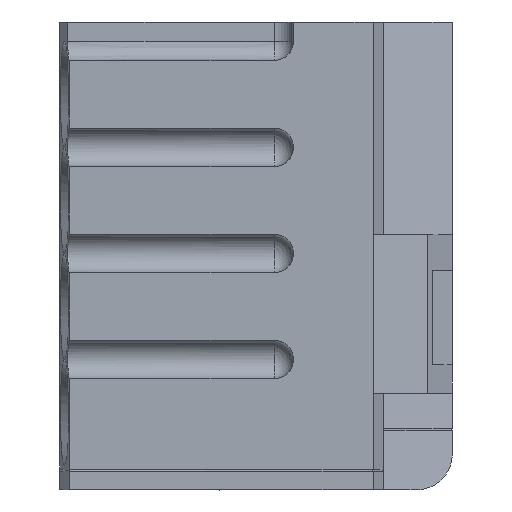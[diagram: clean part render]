
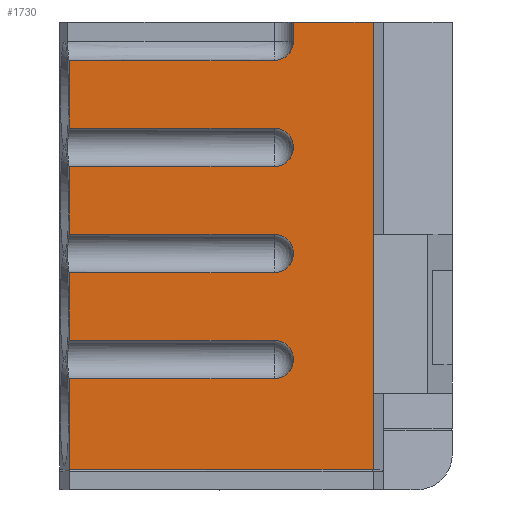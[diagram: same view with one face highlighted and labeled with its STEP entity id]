
A CAD part, top view. The second image highlights one B-rep face of the part: STEP entity #1730.
In plain terms, the highlighted planar face has unit normal (0, 0, 1).
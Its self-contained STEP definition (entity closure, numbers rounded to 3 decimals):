
#23=B_SPLINE_CURVE_WITH_KNOTS('',3,(#2561,#2562,#2563,#2564),
 .UNSPECIFIED.,.F.,.F.,(4,4),(0.,0.009),.UNSPECIFIED.);
#67=PLANE('',#1856);
#87=LINE('',#2227,#200);
#88=LINE('',#2231,#201);
#89=LINE('',#2238,#202);
#90=LINE('',#2242,#203);
#179=LINE('',#2497,#292);
#181=LINE('',#2501,#294);
#182=LINE('',#2503,#295);
#183=LINE('',#2505,#296);
#184=LINE('',#2507,#297);
#191=LINE('',#2535,#304);
#193=LINE('',#2566,#306);
#194=LINE('',#2570,#307);
#195=LINE('',#2572,#308);
#196=LINE('',#2573,#309);
#197=LINE('',#2574,#310);
#198=LINE('',#2575,#311);
#200=VECTOR('',#1871,1000.);
#201=VECTOR('',#1874,1000.);
#202=VECTOR('',#1883,1000.);
#203=VECTOR('',#1886,1000.);
#292=VECTOR('',#2147,1000.);
#294=VECTOR('',#2151,1000.);
#295=VECTOR('',#2154,1000.);
#296=VECTOR('',#2157,1000.);
#297=VECTOR('',#2160,1000.);
#304=VECTOR('',#2195,1000.);
#306=VECTOR('',#2201,1000.);
#307=VECTOR('',#2204,1000.);
#308=VECTOR('',#2207,1000.);
#309=VECTOR('',#2208,1000.);
#310=VECTOR('',#2209,1000.);
#311=VECTOR('',#2210,1000.);
#619=ORIENTED_EDGE('',*,*,#666,.F.);
#620=ORIENTED_EDGE('',*,*,#664,.F.);
#621=ORIENTED_EDGE('',*,*,#668,.F.);
#622=ORIENTED_EDGE('',*,*,#822,.T.);
#623=ORIENTED_EDGE('',*,*,#671,.F.);
#624=ORIENTED_EDGE('',*,*,#669,.F.);
#625=ORIENTED_EDGE('',*,*,#673,.F.);
#626=ORIENTED_EDGE('',*,*,#823,.T.);
#627=ORIENTED_EDGE('',*,*,#819,.F.);
#628=ORIENTED_EDGE('',*,*,#788,.T.);
#629=ORIENTED_EDGE('',*,*,#821,.F.);
#630=ORIENTED_EDGE('',*,*,#824,.T.);
#631=ORIENTED_EDGE('',*,*,#800,.F.);
#632=ORIENTED_EDGE('',*,*,#799,.T.);
#633=ORIENTED_EDGE('',*,*,#798,.T.);
#634=ORIENTED_EDGE('',*,*,#797,.T.);
#635=ORIENTED_EDGE('',*,*,#814,.F.);
#636=ORIENTED_EDGE('',*,*,#795,.F.);
#637=ORIENTED_EDGE('',*,*,#792,.T.);
#638=ORIENTED_EDGE('',*,*,#818,.F.);
#639=ORIENTED_EDGE('',*,*,#825,.T.);
#664=EDGE_CURVE('',#828,#829,#928,.F.);
#666=EDGE_CURVE('',#829,#830,#87,.T.);
#668=EDGE_CURVE('',#831,#828,#88,.F.);
#669=EDGE_CURVE('',#832,#833,#930,.F.);
#671=EDGE_CURVE('',#833,#834,#89,.T.);
#673=EDGE_CURVE('',#835,#832,#90,.F.);
#788=EDGE_CURVE('',#909,#910,#946,.T.);
#792=EDGE_CURVE('',#911,#913,#950,.T.);
#795=EDGE_CURVE('',#911,#915,#179,.T.);
#797=EDGE_CURVE('',#887,#916,#181,.T.);
#798=EDGE_CURVE('',#888,#887,#182,.T.);
#799=EDGE_CURVE('',#893,#888,#183,.T.);
#800=EDGE_CURVE('',#893,#917,#184,.F.);
#814=EDGE_CURVE('',#915,#916,#191,.T.);
#818=EDGE_CURVE('',#925,#913,#23,.T.);
#819=EDGE_CURVE('',#909,#926,#193,.T.);
#821=EDGE_CURVE('',#927,#910,#194,.F.);
#822=EDGE_CURVE('',#831,#834,#195,.T.);
#823=EDGE_CURVE('',#835,#926,#196,.T.);
#824=EDGE_CURVE('',#927,#917,#197,.T.);
#825=EDGE_CURVE('',#925,#830,#198,.T.);
#828=VERTEX_POINT('',#2223);
#829=VERTEX_POINT('',#2224);
#830=VERTEX_POINT('',#2228);
#831=VERTEX_POINT('',#2230);
#832=VERTEX_POINT('',#2234);
#833=VERTEX_POINT('',#2235);
#834=VERTEX_POINT('',#2239);
#835=VERTEX_POINT('',#2241);
#887=VERTEX_POINT('',#2400);
#888=VERTEX_POINT('',#2404);
#893=VERTEX_POINT('',#2423);
#909=VERTEX_POINT('',#2482);
#910=VERTEX_POINT('',#2483);
#911=VERTEX_POINT('',#2487);
#913=VERTEX_POINT('',#2490);
#915=VERTEX_POINT('',#2495);
#916=VERTEX_POINT('',#2500);
#917=VERTEX_POINT('',#2508);
#925=VERTEX_POINT('',#2560);
#926=VERTEX_POINT('',#2567);
#927=VERTEX_POINT('',#2569);
#928=CIRCLE('',#1740,0.8);
#930=CIRCLE('',#1745,0.8);
#946=CIRCLE('',#1827,0.8);
#950=CIRCLE('',#1832,0.8);
#1036=EDGE_LOOP('',(#619,#620,#621,#622,#623,#624,#625,#626,#627,#628,#629,
#630,#631,#632,#633,#634,#635,#636,#637,#638,#639));
#1120=FACE_BOUND('',#1036,.T.);
#1730=ADVANCED_FACE('',(#1120),#67,.F.);
#1740=AXIS2_PLACEMENT_3D('',#2222,#1865,#1866);
#1745=AXIS2_PLACEMENT_3D('',#2233,#1877,#1878);
#1827=AXIS2_PLACEMENT_3D('',#2481,#2130,#2131);
#1832=AXIS2_PLACEMENT_3D('',#2491,#2140,#2141);
#1856=AXIS2_PLACEMENT_3D('',#2571,#2205,#2206);
#1865=DIRECTION('',(0.,0.,-1.));
#1866=DIRECTION('',(-1.,0.,0.));
#1871=DIRECTION('',(-1.,0.,0.));
#1874=DIRECTION('',(-1.,0.,0.));
#1877=DIRECTION('',(0.,0.,-1.));
#1878=DIRECTION('',(-1.,0.,0.));
#1883=DIRECTION('',(-1.,0.,0.));
#1886=DIRECTION('',(-1.,0.,0.));
#2130=DIRECTION('',(0.,0.,-1.));
#2131=DIRECTION('',(-1.,0.,0.));
#2140=DIRECTION('',(0.,0.,-1.));
#2141=DIRECTION('',(-1.,0.,0.));
#2147=DIRECTION('',(0.,1.,0.));
#2151=DIRECTION('',(0.,1.,0.));
#2154=DIRECTION('',(0.,1.,0.));
#2157=DIRECTION('',(0.,1.,0.));
#2160=DIRECTION('',(1.,0.,0.));
#2195=DIRECTION('',(1.,0.,0.));
#2201=DIRECTION('',(-1.,0.,0.));
#2204=DIRECTION('',(-1.,0.,0.));
#2205=DIRECTION('',(0.,0.,-1.));
#2206=DIRECTION('',(-1.,0.,0.));
#2207=DIRECTION('',(0.,-1.,0.));
#2208=DIRECTION('',(0.,-1.,0.));
#2209=DIRECTION('',(0.,-1.,0.));
#2210=DIRECTION('',(0.,-1.,0.));
#2222=CARTESIAN_POINT('',(0.8,14.2,3.75));
#2223=CARTESIAN_POINT('',(0.8,13.4,3.75));
#2224=CARTESIAN_POINT('',(0.8,15.,3.75));
#2227=CARTESIAN_POINT('',(0.8,15.,3.75));
#2228=CARTESIAN_POINT('',(-7.7,15.,3.75));
#2230=CARTESIAN_POINT('',(-7.7,13.4,3.75));
#2231=CARTESIAN_POINT('',(0.8,13.4,3.75));
#2233=CARTESIAN_POINT('',(0.8,9.8,3.75));
#2234=CARTESIAN_POINT('',(0.8,9.,3.75));
#2235=CARTESIAN_POINT('',(0.8,10.6,3.75));
#2238=CARTESIAN_POINT('',(0.8,10.6,3.75));
#2239=CARTESIAN_POINT('',(-7.7,10.6,3.75));
#2241=CARTESIAN_POINT('',(-7.7,9.,3.75));
#2242=CARTESIAN_POINT('',(0.8,9.,3.75));
#2400=CARTESIAN_POINT('',(4.9,10.6,3.75));
#2404=CARTESIAN_POINT('',(4.9,4.,3.75));
#2423=CARTESIAN_POINT('',(4.9,0.825,3.75));
#2481=CARTESIAN_POINT('',(0.8,5.4,3.75));
#2482=CARTESIAN_POINT('',(0.8,6.2,3.75));
#2483=CARTESIAN_POINT('',(0.8,4.6,3.75));
#2487=CARTESIAN_POINT('',(1.6,18.6,3.75));
#2490=CARTESIAN_POINT('',(0.8,17.8,3.75));
#2491=CARTESIAN_POINT('',(0.8,18.6,3.75));
#2495=CARTESIAN_POINT('',(1.6,19.4,3.75));
#2497=CARTESIAN_POINT('',(1.6,10.6,3.75));
#2500=CARTESIAN_POINT('',(4.9,19.4,3.75));
#2501=CARTESIAN_POINT('',(4.9,11.826,3.75));
#2503=CARTESIAN_POINT('',(4.9,10.6,3.75));
#2505=CARTESIAN_POINT('',(4.9,10.6,3.75));
#2507=CARTESIAN_POINT('',(-7.7,0.825,3.75));
#2508=CARTESIAN_POINT('',(-7.7,0.825,3.75));
#2535=CARTESIAN_POINT('',(-8.1,19.4,3.75));
#2560=CARTESIAN_POINT('',(-7.7,17.8,3.75));
#2561=CARTESIAN_POINT('',(-7.7,17.8,3.75));
#2562=CARTESIAN_POINT('',(-4.867,17.8,3.75));
#2563=CARTESIAN_POINT('',(-2.033,17.8,3.75));
#2564=CARTESIAN_POINT('',(0.8,17.8,3.75));
#2566=CARTESIAN_POINT('',(0.8,6.2,3.75));
#2567=CARTESIAN_POINT('',(-7.7,6.2,3.75));
#2569=CARTESIAN_POINT('',(-7.7,4.6,3.75));
#2570=CARTESIAN_POINT('',(0.8,4.6,3.75));
#2571=CARTESIAN_POINT('',(-8.1,10.6,3.75));
#2572=CARTESIAN_POINT('',(-7.7,13.398,3.75));
#2573=CARTESIAN_POINT('',(-7.7,13.398,3.75));
#2574=CARTESIAN_POINT('',(-7.7,13.398,3.75));
#2575=CARTESIAN_POINT('',(-7.7,13.398,3.75));
